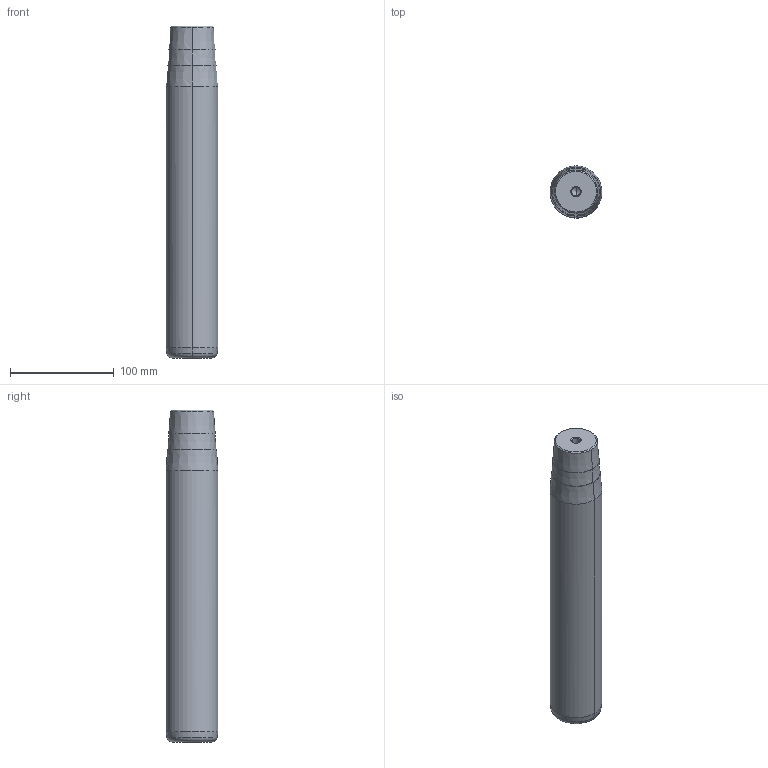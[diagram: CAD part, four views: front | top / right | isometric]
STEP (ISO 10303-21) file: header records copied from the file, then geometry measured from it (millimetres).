
FILE_DESCRIPTION(('CATIA V5 STEP Exchange'),'2;1');
FILE_NAME('C:\Users\Utente\Desktop\IO LAVORO\3D X SITO CF\X SITO\722\722-50x280x320.stp','2021-01-07T19:37:50+00:00',('none'),('none'),'CATIA Version 5 Release 20 GA (IN-10)','CATIA V5 STEP AP203','none');
FILE_SCHEMA(('CONFIG_CONTROL_DESIGN'));
Length unit declared in the file: millimetre
Products named in the file (1): 722-50x280x320
Bounding box: 50 x 50 x 320 mm (x, y, z)
Volume: 604598.3 mm3; surface area: 53664.4 mm2
Topology: 1 solids, 1 shells, 32 faces, 98 edges, 66 vertices
Faces by surface type: cone 22, cylinder 6, plane 2, torus 2
Entity records: 1166 total; most frequent: CARTESIAN_POINT 279, ORIENTED_EDGE 188, DIRECTION 148, EDGE_CURVE 94, AXIS2_PLACEMENT_3D 89, VERTEX_POINT 66, CIRCLE 56, EDGE_LOOP 34
